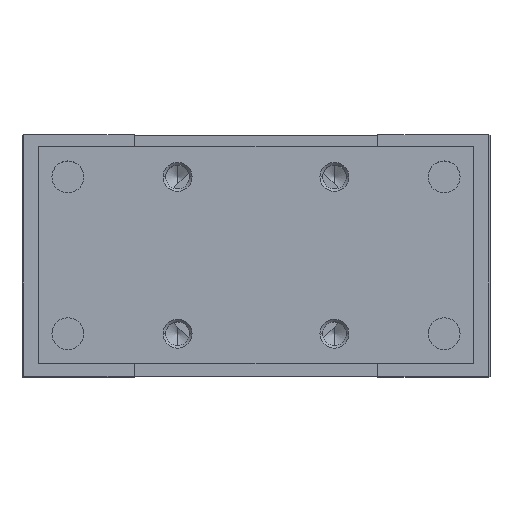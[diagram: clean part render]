
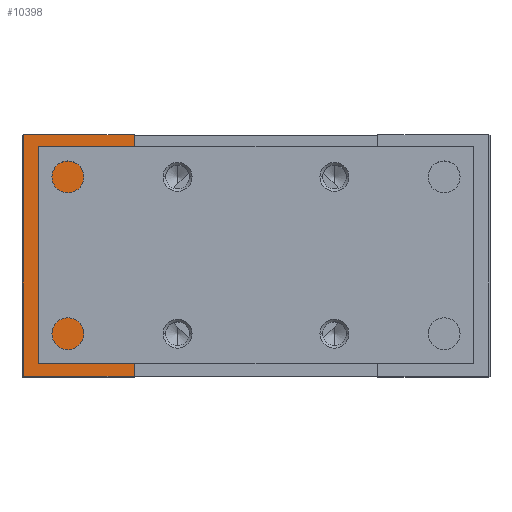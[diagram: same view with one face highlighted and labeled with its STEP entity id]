
A CAD part, top view. The second image highlights one B-rep face of the part: STEP entity #10398.
In plain terms, the highlighted planar face has unit normal (0, 0, 1).
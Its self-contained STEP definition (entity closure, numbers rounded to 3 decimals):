
#67 = CARTESIAN_POINT ( 'NONE',  ( -37., 0., 49. ) ) ;
#195 = EDGE_LOOP ( 'NONE', ( #3375, #9588 ) ) ;
#203 = VERTEX_POINT ( 'NONE', #9061 ) ;
#403 = VERTEX_POINT ( 'NONE', #1724 ) ;
#602 = ORIENTED_EDGE ( 'NONE', *, *, #10840, .T. ) ;
#812 = DIRECTION ( 'NONE',  ( 0., 0., -1. ) ) ;
#894 = AXIS2_PLACEMENT_3D ( 'NONE', #8522, #812, #8579 ) ;
#977 = VECTOR ( 'NONE', #6423, 1000. ) ;
#978 = PLANE ( 'NONE',  #894 ) ;
#1246 = LINE ( 'NONE', #10727, #2814 ) ;
#1525 = DIRECTION ( 'NONE',  ( 0., 0., 1. ) ) ;
#1583 = CARTESIAN_POINT ( 'NONE',  ( -31., 0., 49. ) ) ;
#1724 = CARTESIAN_POINT ( 'NONE',  ( -43., 0., 49. ) ) ;
#2133 = ORIENTED_EDGE ( 'NONE', *, *, #3053, .F. ) ;
#2264 = DIRECTION ( 'NONE',  ( 1., 0., 0. ) ) ;
#2761 = LINE ( 'NONE', #6199, #4158 ) ;
#2814 = VECTOR ( 'NONE', #2264, 1000. ) ;
#3053 = EDGE_CURVE ( 'NONE', #3947, #203, #7210, .T. ) ;
#3375 = ORIENTED_EDGE ( 'NONE', *, *, #6783, .F. ) ;
#3944 = CARTESIAN_POINT ( 'NONE',  ( -25.25, -25., 49. ) ) ;
#3947 = VERTEX_POINT ( 'NONE', #4182 ) ;
#4063 = CARTESIAN_POINT ( 'NONE',  ( -48.2, -25., 49. ) ) ;
#4158 = VECTOR ( 'NONE', #9640, 1000. ) ;
#4182 = CARTESIAN_POINT ( 'NONE',  ( -48.2, 25., 49. ) ) ;
#4295 = DIRECTION ( 'NONE',  ( 0., 0., 1. ) ) ;
#4413 = EDGE_CURVE ( 'NONE', #10625, #403, #7958, .T. ) ;
#4551 = AXIS2_PLACEMENT_3D ( 'NONE', #5802, #1525, #4959 ) ;
#4719 = CARTESIAN_POINT ( 'NONE',  ( -25.25, 25., 49. ) ) ;
#4959 = DIRECTION ( 'NONE',  ( 1., 0., 0. ) ) ;
#5005 = EDGE_LOOP ( 'NONE', ( #2133, #602, #8057, #10408 ) ) ;
#5048 = EDGE_CURVE ( 'NONE', #203, #9799, #9157, .T. ) ;
#5094 = FACE_OUTER_BOUND ( 'NONE', #5005, .T. ) ;
#5802 = CARTESIAN_POINT ( 'NONE',  ( -37., 0., 49. ) ) ;
#6199 = CARTESIAN_POINT ( 'NONE',  ( -48.2, 50., 49. ) ) ;
#6423 = DIRECTION ( 'NONE',  ( 1., 0., 0. ) ) ;
#6581 = CIRCLE ( 'NONE', #7474, 6. ) ;
#6714 = VECTOR ( 'NONE', #9902, 1000. ) ;
#6783 = EDGE_CURVE ( 'NONE', #403, #10625, #6581, .T. ) ;
#7092 = VERTEX_POINT ( 'NONE', #4063 ) ;
#7210 = LINE ( 'NONE', #10647, #977 ) ;
#7474 = AXIS2_PLACEMENT_3D ( 'NONE', #67, #4295, #7562 ) ;
#7562 = DIRECTION ( 'NONE',  ( 1., 0., 0. ) ) ;
#7958 = CIRCLE ( 'NONE', #4551, 6. ) ;
#8057 = ORIENTED_EDGE ( 'NONE', *, *, #8268, .T. ) ;
#8268 = EDGE_CURVE ( 'NONE', #7092, #9799, #1246, .T. ) ;
#8522 = CARTESIAN_POINT ( 'NONE',  ( -48.5, 25., 49. ) ) ;
#8579 = DIRECTION ( 'NONE',  ( 0., -1., 0. ) ) ;
#8689 = FACE_BOUND ( 'NONE', #195, .T. ) ;
#9061 = CARTESIAN_POINT ( 'NONE',  ( -25.25, 25., 49. ) ) ;
#9157 = LINE ( 'NONE', #4719, #6714 ) ;
#9588 = ORIENTED_EDGE ( 'NONE', *, *, #4413, .F. ) ;
#9640 = DIRECTION ( 'NONE',  ( 0., -1., 0. ) ) ;
#9799 = VERTEX_POINT ( 'NONE', #3944 ) ;
#9902 = DIRECTION ( 'NONE',  ( 0., -1., 0. ) ) ;
#10398 = ADVANCED_FACE ( 'NONE', ( #5094, #8689 ), #978, .F. ) ;
#10408 = ORIENTED_EDGE ( 'NONE', *, *, #5048, .F. ) ;
#10625 = VERTEX_POINT ( 'NONE', #1583 ) ;
#10647 = CARTESIAN_POINT ( 'NONE',  ( -48.5, 25., 49. ) ) ;
#10727 = CARTESIAN_POINT ( 'NONE',  ( -48.5, -25., 49. ) ) ;
#10840 = EDGE_CURVE ( 'NONE', #3947, #7092, #2761, .T. ) ;
